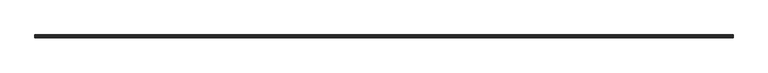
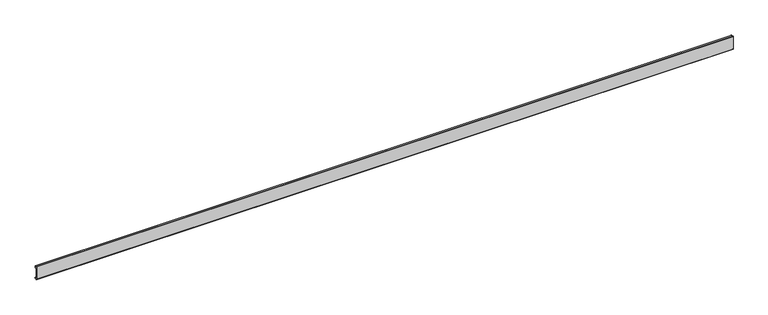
"""IFC4 building model written with IfcOpenShell, lengths in millimetres: proxy geometry, Weiku - Montante - Capa de folha 02.3.02.406 : Weiku - Montante - Capa de folha 02.3.02.406."""

from ifc_helpers import new_model, si_unit, point, frame, frame_2d, origin, place, context, project, spatial, polyline, circle_curve, trimmed, segment, composite_curve, outline, extrude, source, transform, mapped, element, save


def generic_models_391966dc(model_context):
    return source(origin(), model_context, "Body", "SweptSolid", [
        extrude(outline(composite_curve([segment(polyline([(4.6421508, 2.2715508), (5.3603515, 1.056104)]), True, "CONTINUOUS"), segment(trimmed(circle_curve(frame_2d((4.7576991, 0.7)), 0.7), [point((5.3603515, 1.056104))], [point((4.7576991, 0.0))], False, "CARTESIAN"), True, "CONTINUOUS"), segment(polyline([(4.7576991, 0.0), (0.5, 0.0)]), True, "CONTINUOUS"), segment(trimmed(circle_curve(frame_2d((0.5, 0.5)), 0.5), [point((0.5, 0.0))], [point((0.0, 0.5))], False, "CARTESIAN"), True, "CONTINUOUS"), segment(polyline([(0.0, 0.5), (0.0, 26.2)]), True, "CONTINUOUS"), segment(trimmed(circle_curve(frame_2d((0.5, 26.2)), 0.5), [point((0.0, 26.2))], [point((0.5, 26.7))], False, "CARTESIAN"), True, "CONTINUOUS"), segment(polyline([(0.5, 26.7), (3.78, 26.7)]), True, "CONTINUOUS"), segment(trimmed(circle_curve(frame_2d((3.78, 26.2)), 0.5), [point((3.78, 26.7))], [point((4.28, 26.2))], False, "CARTESIAN"), True, "CONTINUOUS"), segment(polyline([(4.28, 26.2), (4.28, 22.3396), (3.3063, 22.3396), (3.3063, 25.684), (1.6933, 25.684), (1.6933, 1.016), (3.3866, 1.016), (4.6421508, 2.2715508)]), True, "CONTINUOUS")], self_intersect=False)), frame((-680.5, 0.0, 0.0), z_axis=(1.0, 0.0, 0.0), x_axis=(0.0, 1.0, 0.0)), (0.0, 0.0, 1.0), 1361.0),
    ])


if __name__ == "__main__":
    model = new_model("IFC4")
    model_context = context("Model", 3, world=origin())
    ifc_project = project(units=[si_unit("LENGTHUNIT", "METRE", prefix="MILLI")], contexts=[model_context])
    site = spatial("IfcSite", under=ifc_project)
    building = spatial("IfcBuilding", under=site)
    placement = place(None, origin())
    generic_models_shape = generic_models_391966dc(model_context)
    element("IfcBuildingElementProxy", 1, Name="Weiku - Montante - Capa de folha 02.3.02.406 : Weiku - Montante - Capa de folha 02.3.02.406", ObjectType="Weiku - Montante - Capa de folha 02.3.02.406 : Weiku - Montante - Capa de folha 02.3.02.406", at=placement, inside=building, context=model_context, shape_type="MappedRepresentation", body=[
        mapped(generic_models_shape, transform((0.0, 0.0, 0.0), x_axis=(1.0, 0.0, 0.0), y_axis=(0.0, 1.0, 0.0), z_axis=(0.0, 0.0, 1.0))),
    ])
    save(model, "model.ifc")
